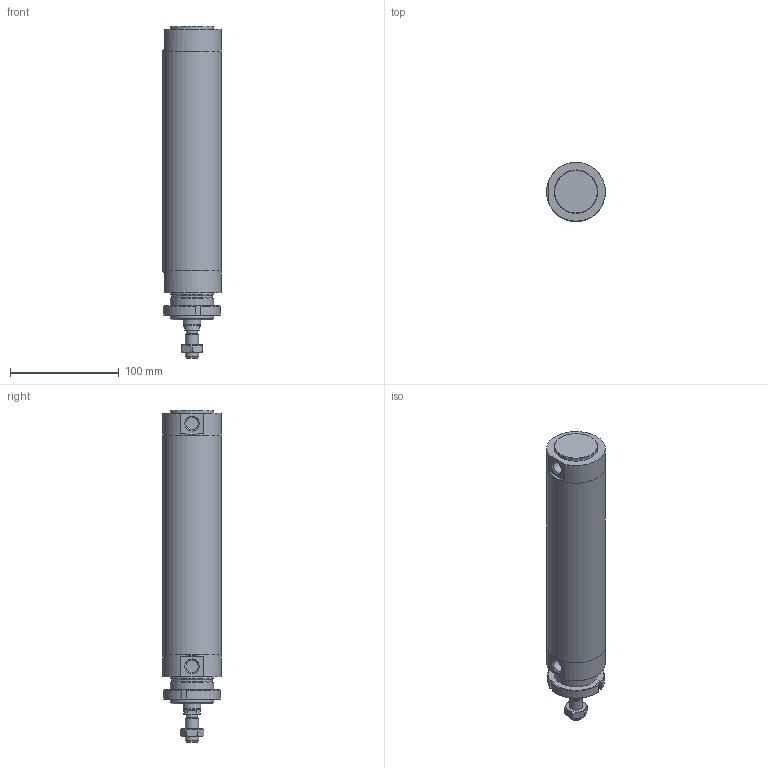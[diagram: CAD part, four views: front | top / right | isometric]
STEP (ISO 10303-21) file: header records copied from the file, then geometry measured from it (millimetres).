
FILE_DESCRIPTION(/* description */ (''),/* implementation_level */ '2;1');
FILE_NAME(/* name */ 'I:\Area Tecnica\Documenti\A-Manieri\_Inventor\12X\12X#D_###_####_#_#\12XAD_050_0160_#_#.stp',/* time_stamp */ '2015-04-29T16:44:18+02:00',/* author */ ('maniean1'),/* organization */ ('Pneumax S.p.A.'),/* preprocessor_version */ 'ST-DEVELOPER v15.2',/* originating_system */ 'Autodesk Inventor 2014',/* authorisation */ '');
FILE_SCHEMA (('AUTOMOTIVE_DESIGN { 1 0 10303 214 3 1 1 }'));
Length unit declared in the file: millimetre
Products named in the file (7): C1250_619-0160; 12X50_604; S12X50_0160; 12X_50_11; 12X50_611; G12X_050_05; 12XAD_050_0160_#_#
Bounding box: 54 x 54 x 305 mm (x, y, z)
Volume: 319915.4 mm3; surface area: 115850.3 mm2
Topology: 6 solids, 6 shells, 81 faces, 175 edges, 112 vertices
Faces by surface type: plane 41, cylinder 21, cone 19
Full cylindrical faces by diameter (mm): 10.2 x1, 11.4 x2, 12 x2, 14 x1, 15.6 x1, 16 x1, 38.2 x1, 40 x4, 50 x2, 54 x3
Entity records: 2155 total; most frequent: CARTESIAN_POINT 400, DIRECTION 364, ORIENTED_EDGE 284, AXIS2_PLACEMENT_3D 156, EDGE_CURVE 142, EDGE_LOOP 124, VERTEX_POINT 108, ADVANCED_FACE 81
